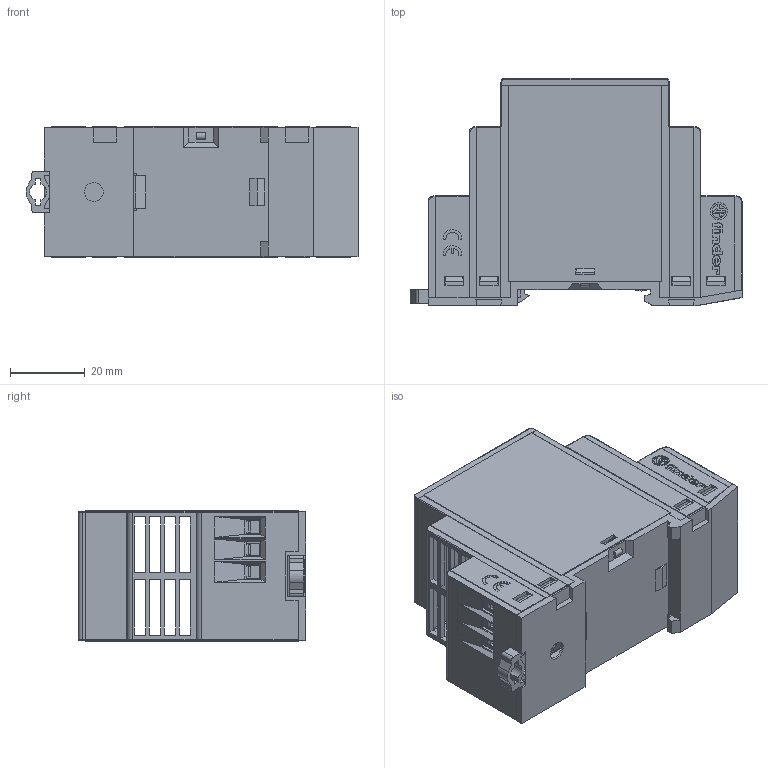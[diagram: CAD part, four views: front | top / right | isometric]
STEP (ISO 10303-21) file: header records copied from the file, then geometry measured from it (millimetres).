
FILE_DESCRIPTION(/* description */ ('Unknown'),/* implementation_level */ '2;1');
FILE_NAME(/* name */ '7825',/* time_stamp */ '2018-04-09T10:30:49+02:00',/* author */ ('Unknown'),/* organization */ ('Unknown'),/* preprocessor_version */ 'ST-DEVELOPER v16.7',/* originating_system */ 'DEX',/* authorisation */ $);
FILE_SCHEMA (('AUTOMOTIVE_DESIGN {1 0 10303 214 3 1 1}'));
Products named in the file (1): 7825
Bounding box: 88.85 x 60.79 x 35 mm (x, y, z)
Surface area: 27954 mm2 (no closed solid volume)
Topology: 0 solids, 104 shells, 2007 faces, 6825 edges, 4896 vertices
Faces by surface type: plane 1772, cylinder 166, cone 28, torus 26, bspline 14, sphere 1
Full cylindrical faces by diameter (mm): 2.1 x1, 3 x2, 4.566 x2, 4.6 x7, 5 x8
Entity records: 73333 total; most frequent: CARTESIAN_POINT 14579, DIRECTION 11277, ORIENTED_EDGE 11109, EDGE_CURVE 6788, LINE 6027, VECTOR 6027, VERTEX_POINT 4881, AXIS2_PLACEMENT_3D 2625
